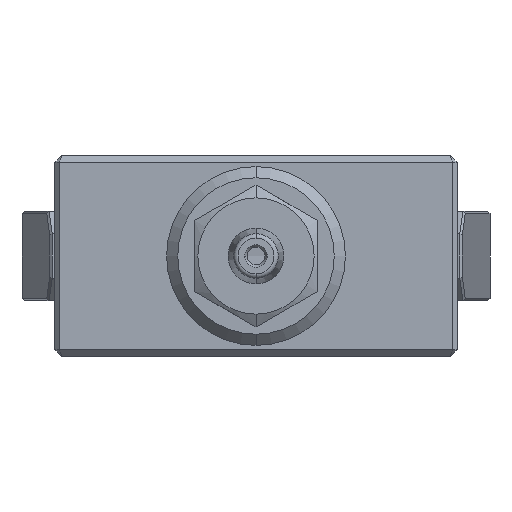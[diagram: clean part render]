
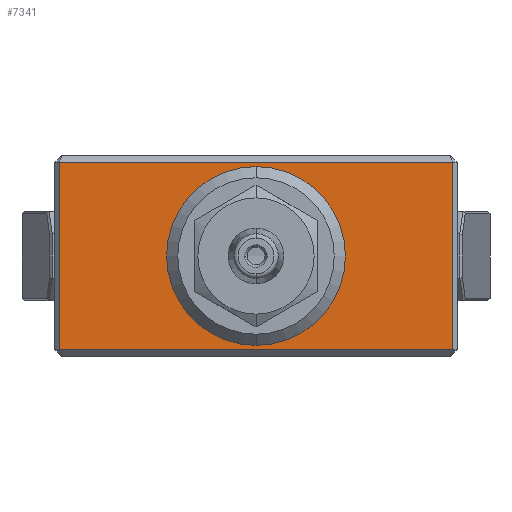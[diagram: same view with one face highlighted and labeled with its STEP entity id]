
A CAD part, front view. The second image highlights one B-rep face of the part: STEP entity #7341.
In plain terms, the highlighted planar face has unit normal (0, -1, 0).
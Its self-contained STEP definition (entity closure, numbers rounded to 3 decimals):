
#287 = CARTESIAN_POINT ( 'NONE',  ( 8.8, -10.25, 99.7 ) ) ;
#378 = VECTOR ( 'NONE', #20507, 1000. ) ;
#773 = ORIENTED_EDGE ( 'NONE', *, *, #3640, .T. ) ;
#1151 = PLANE ( 'NONE',  #12196 ) ;
#1227 = CARTESIAN_POINT ( 'NONE',  ( 9., -10.25, 100. ) ) ;
#1561 = CARTESIAN_POINT ( 'NONE',  ( -8.8, -10.25, 91.3 ) ) ;
#2492 = FACE_BOUND ( 'NONE', #13841, .T. ) ;
#2653 = EDGE_CURVE ( 'NONE', #22415, #11130, #12339, .T. ) ;
#3000 = DIRECTION ( 'NONE',  ( 0., 0., -1. ) ) ;
#3640 = EDGE_CURVE ( 'NONE', #21560, #9619, #6165, .T. ) ;
#3797 = AXIS2_PLACEMENT_3D ( 'NONE', #15861, #5207, #17643 ) ;
#4463 = EDGE_LOOP ( 'NONE', ( #13833, #773, #13033, #9141 ) ) ;
#5147 = LINE ( 'NONE', #22214, #378 ) ;
#5207 = DIRECTION ( 'NONE',  ( 0., -1., 0. ) ) ;
#5500 = CIRCLE ( 'NONE', #10570, 4. ) ;
#5651 = CARTESIAN_POINT ( 'NONE',  ( 8.8, -10.25, 91.3 ) ) ;
#6165 = LINE ( 'NONE', #17383, #20367 ) ;
#6291 = CARTESIAN_POINT ( 'NONE',  ( 0., -10.25, 95.5 ) ) ;
#6716 = FACE_OUTER_BOUND ( 'NONE', #4463, .T. ) ;
#7341 = ADVANCED_FACE ( 'NONE', ( #6716, #2492 ), #1151, .T. ) ;
#8072 = DIRECTION ( 'NONE',  ( 1., 0., 0. ) ) ;
#8528 = DIRECTION ( 'NONE',  ( 0., 0., -1. ) ) ;
#8612 = ORIENTED_EDGE ( 'NONE', *, *, #21744, .F. ) ;
#8941 = EDGE_CURVE ( 'NONE', #11130, #21560, #5147, .T. ) ;
#9141 = ORIENTED_EDGE ( 'NONE', *, *, #2653, .T. ) ;
#9430 = CARTESIAN_POINT ( 'NONE',  ( 0., -10.25, 99.5 ) ) ;
#9619 = VERTEX_POINT ( 'NONE', #1561 ) ;
#10560 = CARTESIAN_POINT ( 'NONE',  ( 9., -10.25, 91.3 ) ) ;
#10570 = AXIS2_PLACEMENT_3D ( 'NONE', #6291, #18724, #8072 ) ;
#11130 = VERTEX_POINT ( 'NONE', #287 ) ;
#12196 = AXIS2_PLACEMENT_3D ( 'NONE', #1227, #13705, #3000 ) ;
#12339 = LINE ( 'NONE', #14149, #21845 ) ;
#12954 = LINE ( 'NONE', #10560, #17680 ) ;
#13033 = ORIENTED_EDGE ( 'NONE', *, *, #16840, .T. ) ;
#13061 = VERTEX_POINT ( 'NONE', #9430 ) ;
#13705 = DIRECTION ( 'NONE',  ( 0., -1., 0. ) ) ;
#13833 = ORIENTED_EDGE ( 'NONE', *, *, #8941, .T. ) ;
#13841 = EDGE_LOOP ( 'NONE', ( #8612, #20386 ) ) ;
#14149 = CARTESIAN_POINT ( 'NONE',  ( 8.8, -10.25, 100. ) ) ;
#15414 = VERTEX_POINT ( 'NONE', #21958 ) ;
#15861 = CARTESIAN_POINT ( 'NONE',  ( 0., -10.25, 95.5 ) ) ;
#16012 = EDGE_CURVE ( 'NONE', #15414, #13061, #5500, .T. ) ;
#16840 = EDGE_CURVE ( 'NONE', #9619, #22415, #12954, .T. ) ;
#17383 = CARTESIAN_POINT ( 'NONE',  ( -8.8, -10.25, 100. ) ) ;
#17643 = DIRECTION ( 'NONE',  ( 1., 0., 0. ) ) ;
#17680 = VECTOR ( 'NONE', #19301, 1000. ) ;
#18724 = DIRECTION ( 'NONE',  ( 0., -1., 0. ) ) ;
#19301 = DIRECTION ( 'NONE',  ( 1., 0., 0. ) ) ;
#19549 = DIRECTION ( 'NONE',  ( 0., 0., 1. ) ) ;
#20040 = CIRCLE ( 'NONE', #3797, 4. ) ;
#20367 = VECTOR ( 'NONE', #8528, 1000. ) ;
#20386 = ORIENTED_EDGE ( 'NONE', *, *, #16012, .F. ) ;
#20507 = DIRECTION ( 'NONE',  ( -1., 0., 0. ) ) ;
#21560 = VERTEX_POINT ( 'NONE', #22420 ) ;
#21744 = EDGE_CURVE ( 'NONE', #13061, #15414, #20040, .T. ) ;
#21845 = VECTOR ( 'NONE', #19549, 1000. ) ;
#21958 = CARTESIAN_POINT ( 'NONE',  ( 0., -10.25, 91.5 ) ) ;
#22214 = CARTESIAN_POINT ( 'NONE',  ( -8.8, -10.25, 99.7 ) ) ;
#22415 = VERTEX_POINT ( 'NONE', #5651 ) ;
#22420 = CARTESIAN_POINT ( 'NONE',  ( -8.8, -10.25, 99.7 ) ) ;
